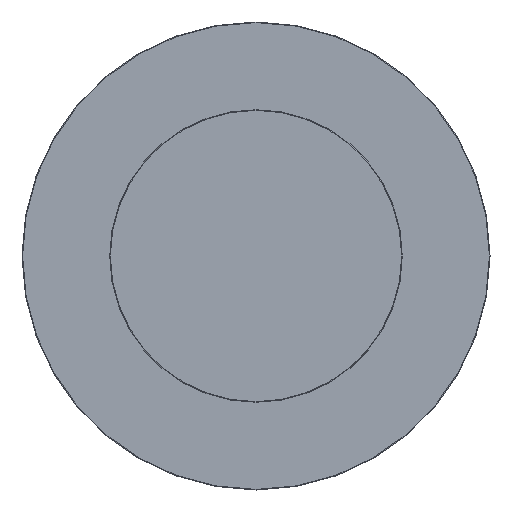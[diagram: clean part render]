
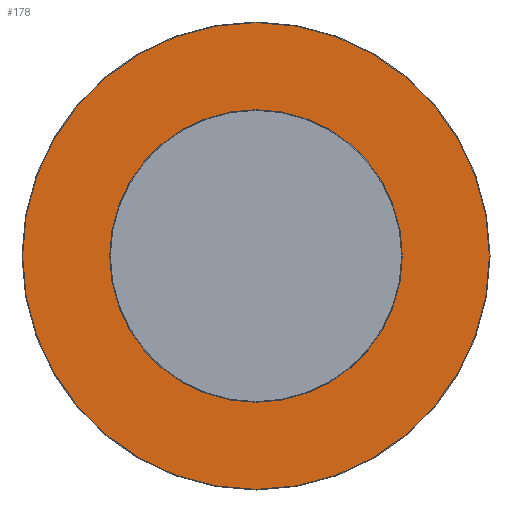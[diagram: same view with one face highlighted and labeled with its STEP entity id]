
A CAD part, front view. The second image highlights one B-rep face of the part: STEP entity #178.
In plain terms, the highlighted planar face has unit normal (0, -1, 0).
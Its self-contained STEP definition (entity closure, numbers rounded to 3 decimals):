
#24 = AXIS2_PLACEMENT_3D ( 'NONE', #194, #562, #245 ) ;
#51 = DIRECTION ( 'NONE',  ( 0., 1., 0. ) ) ;
#94 = CIRCLE ( 'NONE', #24, 399. ) ;
#100 = DIRECTION ( 'NONE',  ( 0., 0., 1. ) ) ;
#127 = CARTESIAN_POINT ( 'NONE',  ( 0., 355., 0. ) ) ;
#136 = FACE_OUTER_BOUND ( 'NONE', #273, .T. ) ;
#149 = EDGE_CURVE ( 'NONE', #402, #370, #151, .T. ) ;
#151 = CIRCLE ( 'NONE', #656, 399. ) ;
#160 = AXIS2_PLACEMENT_3D ( 'NONE', #127, #51, #438 ) ;
#178 = ADVANCED_FACE ( 'NONE', ( #136 ), #407, .F. ) ;
#194 = CARTESIAN_POINT ( 'NONE',  ( 0., 355., 0. ) ) ;
#227 = DIRECTION ( 'NONE',  ( 0., -1., 0. ) ) ;
#236 = EDGE_CURVE ( 'NONE', #370, #402, #94, .T. ) ;
#245 = DIRECTION ( 'NONE',  ( 0., 0., 1. ) ) ;
#273 = EDGE_LOOP ( 'NONE', ( #289, #654 ) ) ;
#278 = CARTESIAN_POINT ( 'NONE',  ( 0., 355., 0. ) ) ;
#289 = ORIENTED_EDGE ( 'NONE', *, *, #236, .T. ) ;
#301 = CARTESIAN_POINT ( 'NONE',  ( 0., 355., 399. ) ) ;
#370 = VERTEX_POINT ( 'NONE', #301 ) ;
#402 = VERTEX_POINT ( 'NONE', #605 ) ;
#407 = PLANE ( 'NONE',  #160 ) ;
#438 = DIRECTION ( 'NONE',  ( 0., 0., 1. ) ) ;
#562 = DIRECTION ( 'NONE',  ( 0., -1., 0. ) ) ;
#605 = CARTESIAN_POINT ( 'NONE',  ( 0., 355., -399. ) ) ;
#654 = ORIENTED_EDGE ( 'NONE', *, *, #149, .T. ) ;
#656 = AXIS2_PLACEMENT_3D ( 'NONE', #278, #227, #100 ) ;
